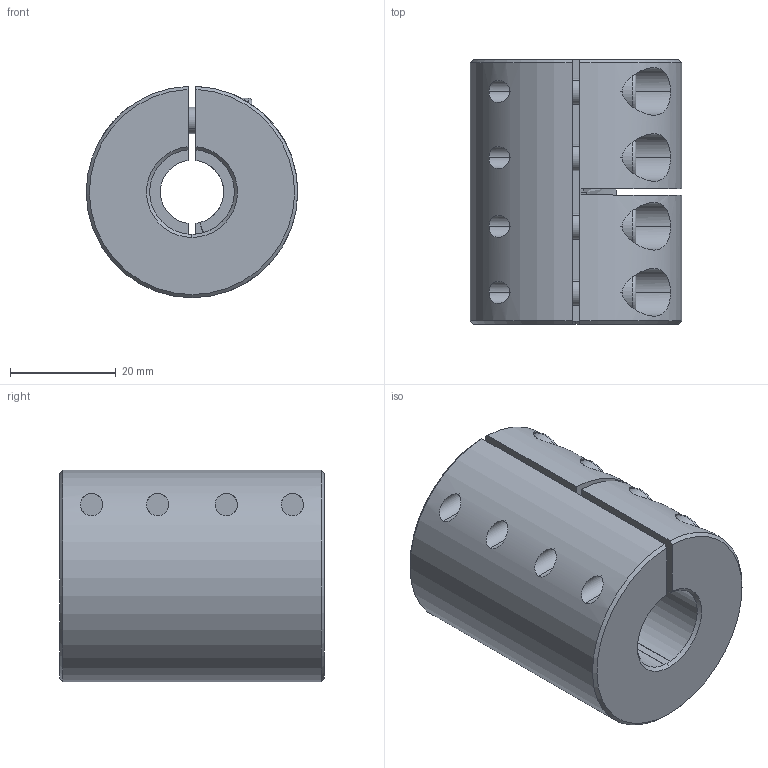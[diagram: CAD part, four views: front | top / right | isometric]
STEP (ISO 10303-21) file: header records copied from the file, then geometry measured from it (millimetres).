
FILE_DESCRIPTION (( 'STEP AP214' ), '1' );
FILE_NAME ('LL-B-D40L50-12-16½¨Ä£.STEP', '2022-07-22T00:22:12', ( '' ), ( '' ), 'SwSTEP 2.0', 'SolidWorks 2022', '' );
FILE_SCHEMA (( 'AUTOMOTIVE_DESIGN' ));
Length unit declared in the file: millimetre
Products named in the file (1): LL-B-D40L50-12-16膘耀
Bounding box: 40 x 50 x 39.99 mm (x, y, z)
Volume: 51870 mm3; surface area: 15369 mm2
Topology: 1 solids, 1 shells, 182 faces, 463 edges, 291 vertices
Faces by surface type: plane 88, cylinder 71, cone 15, torus 8
Entity records: 6017 total; most frequent: CARTESIAN_POINT 1531, DIRECTION 969, ORIENTED_EDGE 910, EDGE_CURVE 455, AXIS2_PLACEMENT_3D 377, VERTEX_POINT 291, LINE 215, VECTOR 215
